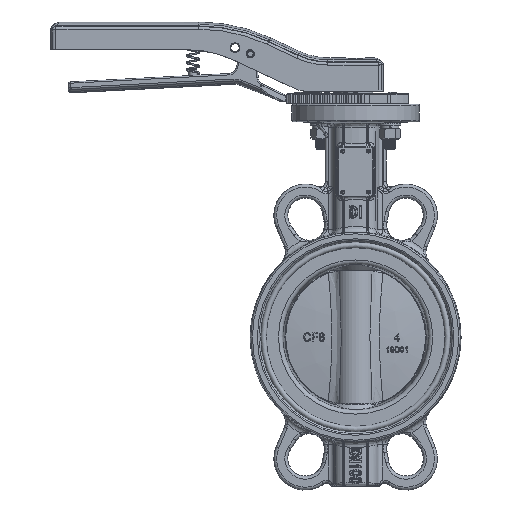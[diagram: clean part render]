
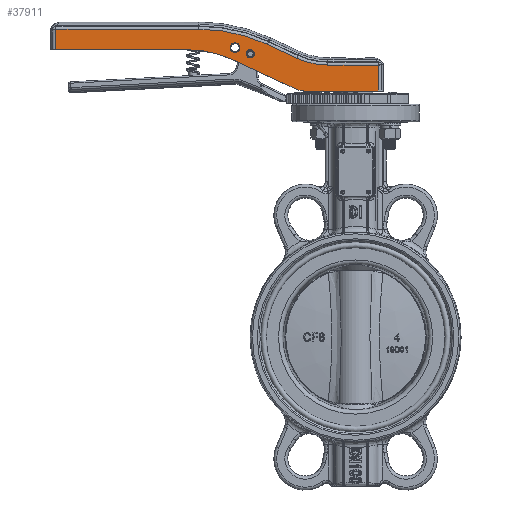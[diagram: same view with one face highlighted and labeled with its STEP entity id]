
A CAD part, top view. The second image highlights one B-rep face of the part: STEP entity #37911.
In plain terms, the highlighted planar face has unit normal (0, 0, 1).
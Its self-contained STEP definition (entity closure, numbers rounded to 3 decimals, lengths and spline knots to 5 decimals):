
#1225=PLANE('',#41277);
#1739=FACE_BOUND('',#12624,.T.);
#1740=FACE_BOUND('',#12625,.T.);
#2991=LINE('',#83990,#5263);
#3078=LINE('',#84374,#5350);
#3122=LINE('',#84642,#5394);
#3123=LINE('',#84648,#5395);
#3124=LINE('',#84649,#5396);
#3125=LINE('',#84652,#5397);
#3126=LINE('',#84654,#5398);
#3127=LINE('',#84657,#5399);
#5263=VECTOR('',#46684,0.05302);
#5350=VECTOR('',#46919,0.09461);
#5394=VECTOR('',#47023,0.04956);
#5395=VECTOR('',#47028,0.10323);
#5396=VECTOR('',#47029,0.01476);
#5397=VECTOR('',#47032,0.01876);
#5398=VECTOR('',#47033,0.03634);
#5399=VECTOR('',#47036,0.02346);
#7847=CIRCLE('',#41258,0.08);
#7860=CIRCLE('',#41278,0.11676);
#7861=CIRCLE('',#41279,0.015);
#7862=CIRCLE('',#41280,0.05324);
#7863=CIRCLE('',#41281,0.003);
#7864=CIRCLE('',#41282,0.0035);
#10204=FACE_OUTER_BOUND('',#12623,.T.);
#12623=EDGE_LOOP('',(#28712,#28713,#28714,#28715,#28716,#28717,#28718,#28719,
#28720,#28721,#28722,#28723));
#12624=EDGE_LOOP('',(#28724));
#12625=EDGE_LOOP('',(#28725));
#16691=VERTEX_POINT('',#83987);
#16692=VERTEX_POINT('',#83989);
#16803=VERTEX_POINT('',#84371);
#16804=VERTEX_POINT('',#84373);
#16820=VERTEX_POINT('',#84411);
#16866=VERTEX_POINT('',#84640);
#16867=VERTEX_POINT('',#84644);
#16868=VERTEX_POINT('',#84645);
#16869=VERTEX_POINT('',#84647);
#16870=VERTEX_POINT('',#84651);
#16871=VERTEX_POINT('',#84653);
#16872=VERTEX_POINT('',#84655);
#16873=VERTEX_POINT('',#84658);
#16874=VERTEX_POINT('',#84660);
#20953=EDGE_CURVE('',#16692,#16691,#2991,.T.);
#21087=EDGE_CURVE('',#16804,#16803,#3078,.T.);
#21106=EDGE_CURVE('',#16803,#16820,#7847,.T.);
#21163=EDGE_CURVE('',#16820,#16866,#3122,.T.);
#21164=EDGE_CURVE('',#16867,#16868,#7860,.F.);
#21165=EDGE_CURVE('',#16868,#16869,#3123,.F.);
#21166=EDGE_CURVE('',#16869,#16804,#3124,.F.);
#21167=EDGE_CURVE('',#16866,#16692,#7861,.F.);
#21168=EDGE_CURVE('',#16691,#16870,#3125,.F.);
#21169=EDGE_CURVE('',#16870,#16871,#3126,.F.);
#21170=EDGE_CURVE('',#16871,#16872,#7862,.T.);
#21171=EDGE_CURVE('',#16872,#16867,#3127,.F.);
#21172=EDGE_CURVE('',#16873,#16873,#7863,.T.);
#21173=EDGE_CURVE('',#16874,#16874,#7864,.T.);
#28712=ORIENTED_EDGE('',*,*,#21164,.T.);
#28713=ORIENTED_EDGE('',*,*,#21165,.T.);
#28714=ORIENTED_EDGE('',*,*,#21166,.T.);
#28715=ORIENTED_EDGE('',*,*,#21087,.T.);
#28716=ORIENTED_EDGE('',*,*,#21106,.T.);
#28717=ORIENTED_EDGE('',*,*,#21163,.T.);
#28718=ORIENTED_EDGE('',*,*,#21167,.T.);
#28719=ORIENTED_EDGE('',*,*,#20953,.T.);
#28720=ORIENTED_EDGE('',*,*,#21168,.T.);
#28721=ORIENTED_EDGE('',*,*,#21169,.T.);
#28722=ORIENTED_EDGE('',*,*,#21170,.T.);
#28723=ORIENTED_EDGE('',*,*,#21171,.T.);
#28724=ORIENTED_EDGE('',*,*,#21172,.T.);
#28725=ORIENTED_EDGE('',*,*,#21173,.T.);
#37911=ADVANCED_FACE('',(#10204,#1739,#1740),#1225,.F.);
#41258=AXIS2_PLACEMENT_3D('',#84413,#46949,#46950);
#41277=AXIS2_PLACEMENT_3D('',#84643,#47024,#47025);
#41278=AXIS2_PLACEMENT_3D('',#84646,#47026,#47027);
#41279=AXIS2_PLACEMENT_3D('',#84650,#47030,#47031);
#41280=AXIS2_PLACEMENT_3D('',#84656,#47034,#47035);
#41281=AXIS2_PLACEMENT_3D('',#84659,#47037,#47038);
#41282=AXIS2_PLACEMENT_3D('',#84661,#47039,#47040);
#46684=DIRECTION('',(1.,0.,0.));
#46919=DIRECTION('',(1.,0.,0.));
#46949=DIRECTION('center_axis',(0.,0.,-1.));
#46950=DIRECTION('ref_axis',(-1.,0.,0.));
#47023=DIRECTION('',(0.906,-0.423,0.));
#47024=DIRECTION('center_axis',(0.,0.,-1.));
#47025=DIRECTION('ref_axis',(-1.,0.,0.));
#47026=DIRECTION('center_axis',(0.,0.,-1.));
#47027=DIRECTION('ref_axis',(-1.,0.,0.));
#47028=DIRECTION('',(1.,0.,0.));
#47029=DIRECTION('',(0.,1.,0.));
#47030=DIRECTION('center_axis',(0.,0.,-1.));
#47031=DIRECTION('ref_axis',(-1.,0.,0.));
#47032=DIRECTION('',(0.,-1.,0.));
#47033=DIRECTION('',(1.,0.,0.));
#47034=DIRECTION('center_axis',(0.,0.,-1.));
#47035=DIRECTION('ref_axis',(-1.,0.,0.));
#47036=DIRECTION('',(0.906,-0.423,0.));
#47037=DIRECTION('center_axis',(0.,0.,-1.));
#47038=DIRECTION('ref_axis',(-1.,0.,0.));
#47039=DIRECTION('center_axis',(0.,0.,-1.));
#47040=DIRECTION('ref_axis',(-1.,0.,0.));
#83987=CARTESIAN_POINT('',(-0.00366,0.,0.014));
#83989=CARTESIAN_POINT('',(-0.05667,0.,0.014));
#83990=CARTESIAN_POINT('',(-0.05667,0.,0.014));
#84371=CARTESIAN_POINT('',(-0.14174,0.02984,0.014));
#84373=CARTESIAN_POINT('',(-0.23634,0.02984,0.014));
#84374=CARTESIAN_POINT('',(-0.23634,0.02984,0.014));
#84411=CARTESIAN_POINT('',(-0.10793,0.02235,0.014));
#84413=CARTESIAN_POINT('Origin',(-0.14174,-0.05016,
0.014));
#84640=CARTESIAN_POINT('',(-0.06301,0.00141,0.014));
#84642=CARTESIAN_POINT('',(-0.10793,0.02235,0.014));
#84643=CARTESIAN_POINT('Origin',(-0.04,0.072,0.014));
#84644=CARTESIAN_POINT('',(-0.08377,0.03366,0.014));
#84645=CARTESIAN_POINT('',(-0.13311,0.0446,0.014));
#84646=CARTESIAN_POINT('Origin',(-0.13311,-0.07216,
0.014));
#84647=CARTESIAN_POINT('',(-0.23634,0.0446,0.014));
#84648=CARTESIAN_POINT('',(-0.23634,0.0446,0.014));
#84649=CARTESIAN_POINT('',(-0.23634,0.02984,0.014));
#84650=CARTESIAN_POINT('Origin',(-0.05667,0.015,0.014));
#84651=CARTESIAN_POINT('',(-0.00366,0.01876,0.014));
#84652=CARTESIAN_POINT('',(-0.00366,0.01876,0.014));
#84653=CARTESIAN_POINT('',(-0.04,0.01876,0.014));
#84654=CARTESIAN_POINT('',(-0.04,0.01876,0.014));
#84655=CARTESIAN_POINT('',(-0.0625,0.02375,0.014));
#84656=CARTESIAN_POINT('Origin',(-0.04,0.072,0.014));
#84657=CARTESIAN_POINT('',(-0.08377,0.03366,0.014));
#84658=CARTESIAN_POINT('',(-0.093,0.02684,0.014));
#84659=CARTESIAN_POINT('Origin',(-0.096,0.02684,0.014));
#84660=CARTESIAN_POINT('',(-0.1035,0.03134,0.014));
#84661=CARTESIAN_POINT('Origin',(-0.107,0.03134,0.014));
